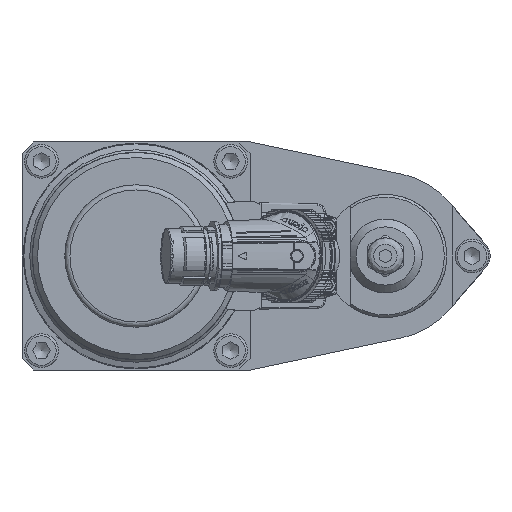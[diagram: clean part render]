
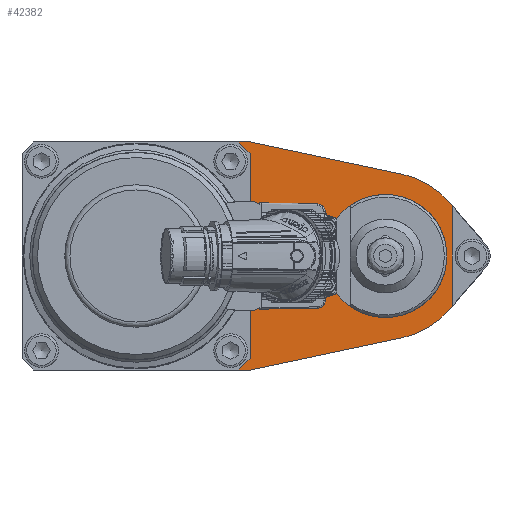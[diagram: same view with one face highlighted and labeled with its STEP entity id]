
A CAD part, left-side view. The second image highlights one B-rep face of the part: STEP entity #42382.
In plain terms, the highlighted planar face has unit normal (-1, 0, 0).
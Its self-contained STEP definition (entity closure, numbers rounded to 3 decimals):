
#799 = ORIENTED_EDGE ( 'NONE', *, *, #25777, .T. ) ;
#961 = CIRCLE ( 'NONE', #64243, 23.75 ) ;
#1102 = PLANE ( 'NONE',  #13200 ) ;
#1150 = CARTESIAN_POINT ( 'NONE',  ( -132., 52.13, -44. ) ) ;
#1609 = EDGE_LOOP ( 'NONE', ( #35576, #70124, #799, #37677, #37645, #34378, #47259, #92713, #82214, #32573, #37910, #92728 ) ) ;
#1636 = DIRECTION ( 'NONE',  ( 0., 0.656, -0.755 ) ) ;
#3599 = VERTEX_POINT ( 'NONE', #92985 ) ;
#4718 = CIRCLE ( 'NONE', #37115, 32.2 ) ;
#5400 = LINE ( 'NONE', #27622, #56437 ) ;
#5926 = VERTEX_POINT ( 'NONE', #27225 ) ;
#6218 = ORIENTED_EDGE ( 'NONE', *, *, #12431, .F. ) ;
#6448 = DIRECTION ( 'NONE',  ( -1., 0., 0. ) ) ;
#10123 = LINE ( 'NONE', #69559, #46356 ) ;
#10144 = VERTEX_POINT ( 'NONE', #14046 ) ;
#10588 = DIRECTION ( 'NONE',  ( 0., 0., -1. ) ) ;
#11106 = LINE ( 'NONE', #47788, #14779 ) ;
#12431 = EDGE_CURVE ( 'NONE', #10144, #5926, #22670, .T. ) ;
#13200 = AXIS2_PLACEMENT_3D ( 'NONE', #32536, #67787, #83241 ) ;
#14046 = CARTESIAN_POINT ( 'NONE',  ( -132., 19., 14.25 ) ) ;
#14779 = VECTOR ( 'NONE', #26579, 1000. ) ;
#15315 = LINE ( 'NONE', #73787, #25313 ) ;
#16217 = EDGE_CURVE ( 'NONE', #23954, #91895, #83552, .T. ) ;
#17832 = LINE ( 'NONE', #47291, #65736 ) ;
#18498 = VERTEX_POINT ( 'NONE', #43689 ) ;
#19840 = VERTEX_POINT ( 'NONE', #36517 ) ;
#22668 = DIRECTION ( 'NONE',  ( 0., 1., 0. ) ) ;
#22670 = LINE ( 'NONE', #80232, #80118 ) ;
#22982 = DIRECTION ( 'NONE',  ( 0., 0., 1. ) ) ;
#23954 = VERTEX_POINT ( 'NONE', #94609 ) ;
#24401 = VECTOR ( 'NONE', #30646, 1000. ) ;
#24543 = CARTESIAN_POINT ( 'NONE',  ( -132., -6.695, -31.496 ) ) ;
#25313 = VECTOR ( 'NONE', #66530, 1000. ) ;
#25777 = EDGE_CURVE ( 'NONE', #65032, #91895, #15315, .T. ) ;
#25938 = VERTEX_POINT ( 'NONE', #46696 ) ;
#26579 = DIRECTION ( 'NONE',  ( 0., -0.978, -0.208 ) ) ;
#27225 = CARTESIAN_POINT ( 'NONE',  ( -132., 19., -14.25 ) ) ;
#27622 = CARTESIAN_POINT ( 'NONE',  ( -132., -24.302, 21.125 ) ) ;
#29581 = EDGE_CURVE ( 'NONE', #41603, #23954, #37889, .T. ) ;
#29616 = VERTEX_POINT ( 'NONE', #82337 ) ;
#30646 = DIRECTION ( 'NONE',  ( 0., 0.978, -0.208 ) ) ;
#32353 = CARTESIAN_POINT ( 'NONE',  ( -132., 140.213, -44. ) ) ;
#32536 = CARTESIAN_POINT ( 'NONE',  ( -132., 49.911, 0. ) ) ;
#32573 = ORIENTED_EDGE ( 'NONE', *, *, #60866, .F. ) ;
#33234 = DIRECTION ( 'NONE',  ( 0., 0., -1. ) ) ;
#33733 = VECTOR ( 'NONE', #33234, 1000. ) ;
#34378 = ORIENTED_EDGE ( 'NONE', *, *, #68248, .F. ) ;
#34530 = EDGE_CURVE ( 'NONE', #19840, #18498, #71777, .T. ) ;
#34867 = DIRECTION ( 'NONE',  ( 0., -0.656, -0.755 ) ) ;
#35576 = ORIENTED_EDGE ( 'NONE', *, *, #66165, .T. ) ;
#35913 = DIRECTION ( 'NONE',  ( 0., 0., 1. ) ) ;
#36517 = CARTESIAN_POINT ( 'NONE',  ( -132., -25.89, -19.298 ) ) ;
#37115 = AXIS2_PLACEMENT_3D ( 'NONE', #59696, #51489, #22982 ) ;
#37645 = ORIENTED_EDGE ( 'NONE', *, *, #29581, .F. ) ;
#37677 = ORIENTED_EDGE ( 'NONE', *, *, #16217, .F. ) ;
#37889 = LINE ( 'NONE', #1150, #24401 ) ;
#37910 = ORIENTED_EDGE ( 'NONE', *, *, #91986, .F. ) ;
#39676 = VECTOR ( 'NONE', #1636, 1000. ) ;
#41603 = VERTEX_POINT ( 'NONE', #24543 ) ;
#42382 = ADVANCED_FACE ( 'NONE', ( #53724, #61487 ), #1102, .T. ) ;
#42670 = CARTESIAN_POINT ( 'NONE',  ( -132., 0., 0. ) ) ;
#43689 = CARTESIAN_POINT ( 'NONE',  ( -132., -24.302, -21.125 ) ) ;
#46356 = VECTOR ( 'NONE', #60857, 1000. ) ;
#46696 = CARTESIAN_POINT ( 'NONE',  ( -132., -6.695, 31.496 ) ) ;
#47259 = ORIENTED_EDGE ( 'NONE', *, *, #34530, .F. ) ;
#47264 = AXIS2_PLACEMENT_3D ( 'NONE', #65092, #72843, #95054 ) ;
#47291 = CARTESIAN_POINT ( 'NONE',  ( -132., 52.213, 44. ) ) ;
#47788 = CARTESIAN_POINT ( 'NONE',  ( -132., 52.13, 44. ) ) ;
#48601 = CARTESIAN_POINT ( 'NONE',  ( -132., 52.13, 44. ) ) ;
#50291 = CARTESIAN_POINT ( 'NONE',  ( -132., -24.302, 21.125 ) ) ;
#51489 = DIRECTION ( 'NONE',  ( 1., 0., 0. ) ) ;
#51661 = CARTESIAN_POINT ( 'NONE',  ( -132., 56.713, -44. ) ) ;
#52320 = CARTESIAN_POINT ( 'NONE',  ( -132., -24.302, -21.125 ) ) ;
#53724 = FACE_OUTER_BOUND ( 'NONE', #1609, .T. ) ;
#54027 = ORIENTED_EDGE ( 'NONE', *, *, #92899, .F. ) ;
#56437 = VECTOR ( 'NONE', #34867, 1000. ) ;
#59696 = CARTESIAN_POINT ( 'NONE',  ( -132., 0., 0. ) ) ;
#60857 = DIRECTION ( 'NONE',  ( 0., -0.707, -0.707 ) ) ;
#60866 = EDGE_CURVE ( 'NONE', #25938, #69054, #85914, .T. ) ;
#61487 = FACE_BOUND ( 'NONE', #95435, .T. ) ;
#62210 = CARTESIAN_POINT ( 'NONE',  ( -132., -25.89, -19.298 ) ) ;
#63290 = DIRECTION ( 'NONE',  ( 0., -1., 0. ) ) ;
#64243 = AXIS2_PLACEMENT_3D ( 'NONE', #42670, #6448, #35913 ) ;
#65032 = VERTEX_POINT ( 'NONE', #77544 ) ;
#65092 = CARTESIAN_POINT ( 'NONE',  ( -132., 0., 0. ) ) ;
#65736 = VECTOR ( 'NONE', #10588, 1000. ) ;
#66165 = EDGE_CURVE ( 'NONE', #3599, #76784, #10123, .T. ) ;
#66530 = DIRECTION ( 'NONE',  ( 0., 0.707, -0.707 ) ) ;
#67787 = DIRECTION ( 'NONE',  ( -1., 0., 0. ) ) ;
#68248 = EDGE_CURVE ( 'NONE', #18498, #41603, #4718, .T. ) ;
#69054 = VERTEX_POINT ( 'NONE', #50291 ) ;
#69289 = EDGE_CURVE ( 'NONE', #3599, #89729, #78745, .T. ) ;
#69559 = CARTESIAN_POINT ( 'NONE',  ( -132., 56.713, 44. ) ) ;
#70064 = CARTESIAN_POINT ( 'NONE',  ( -132., 140.213, 44. ) ) ;
#70124 = ORIENTED_EDGE ( 'NONE', *, *, #92384, .T. ) ;
#70407 = LINE ( 'NONE', #62210, #33733 ) ;
#71777 = LINE ( 'NONE', #52320, #39676 ) ;
#72843 = DIRECTION ( 'NONE',  ( 1., 0., 0. ) ) ;
#73787 = CARTESIAN_POINT ( 'NONE',  ( -132., 52.213, -39.5 ) ) ;
#76176 = EDGE_CURVE ( 'NONE', #29616, #19840, #70407, .T. ) ;
#76784 = VERTEX_POINT ( 'NONE', #80867 ) ;
#77544 = CARTESIAN_POINT ( 'NONE',  ( -132., 52.213, -39.5 ) ) ;
#78745 = LINE ( 'NONE', #70064, #86669 ) ;
#80118 = VECTOR ( 'NONE', #81632, 1000. ) ;
#80232 = CARTESIAN_POINT ( 'NONE',  ( -132., 19., -14.25 ) ) ;
#80867 = CARTESIAN_POINT ( 'NONE',  ( -132., 52.213, 39.5 ) ) ;
#81632 = DIRECTION ( 'NONE',  ( 0., 0., -1. ) ) ;
#82214 = ORIENTED_EDGE ( 'NONE', *, *, #91747, .F. ) ;
#82337 = CARTESIAN_POINT ( 'NONE',  ( -132., -25.89, 19.298 ) ) ;
#83241 = DIRECTION ( 'NONE',  ( 0., 0., 1. ) ) ;
#83552 = LINE ( 'NONE', #32353, #89767 ) ;
#85914 = CIRCLE ( 'NONE', #47264, 32.2 ) ;
#86669 = VECTOR ( 'NONE', #63290, 1000. ) ;
#89729 = VERTEX_POINT ( 'NONE', #48601 ) ;
#89767 = VECTOR ( 'NONE', #22668, 1000. ) ;
#91747 = EDGE_CURVE ( 'NONE', #69054, #29616, #5400, .T. ) ;
#91895 = VERTEX_POINT ( 'NONE', #51661 ) ;
#91986 = EDGE_CURVE ( 'NONE', #89729, #25938, #11106, .T. ) ;
#92384 = EDGE_CURVE ( 'NONE', #76784, #65032, #17832, .T. ) ;
#92713 = ORIENTED_EDGE ( 'NONE', *, *, #76176, .F. ) ;
#92728 = ORIENTED_EDGE ( 'NONE', *, *, #69289, .F. ) ;
#92899 = EDGE_CURVE ( 'NONE', #5926, #10144, #961, .T. ) ;
#92985 = CARTESIAN_POINT ( 'NONE',  ( -132., 56.713, 44. ) ) ;
#94609 = CARTESIAN_POINT ( 'NONE',  ( -132., 52.13, -44. ) ) ;
#95054 = DIRECTION ( 'NONE',  ( 0., 0., 1. ) ) ;
#95435 = EDGE_LOOP ( 'NONE', ( #6218, #54027 ) ) ;
